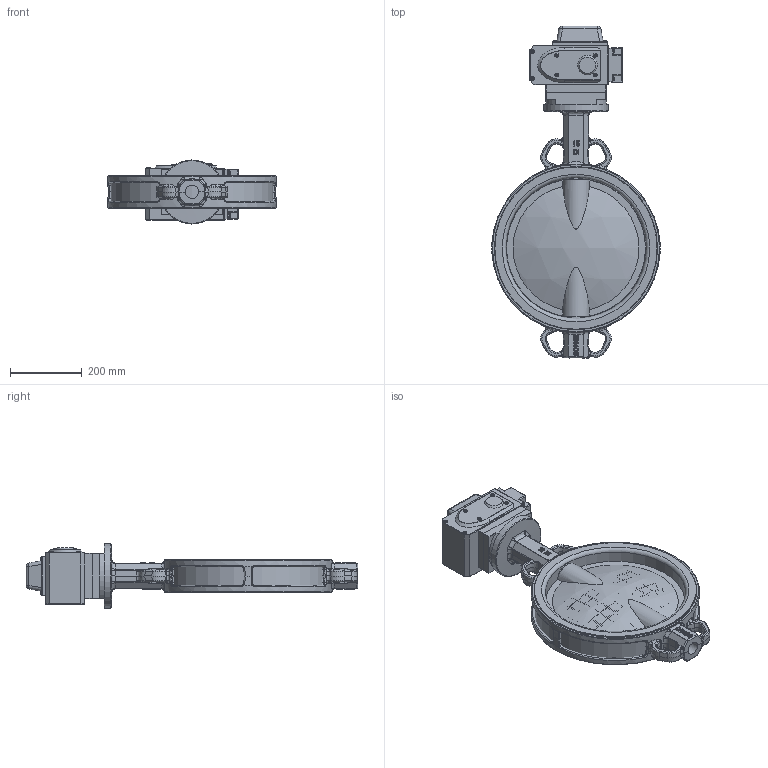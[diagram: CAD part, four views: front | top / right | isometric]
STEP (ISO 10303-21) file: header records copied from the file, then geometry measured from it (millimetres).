
FILE_DESCRIPTION(/* description */ (''),/* implementation_level */ '2;1');
FILE_NAME(/* name */ 'RSV81A220_380-DN400.stp',/* time_stamp */ '2024-08-20T14:05:17+07:00',/* author */ ('Eva'),/* organization */ (''),/* preprocessor_version */ 'ST-DEVELOPER v20',/* originating_system */ 'Autodesk Inventor 2025',/* authorisation */ '');
FILE_SCHEMA (('AUTOMOTIVE_DESIGN { 1 0 10303 214 3 1 1 }'));
Length unit declared in the file: metre
Products named in the file (13): RSV81A220_380-DN400; AРН16; AРН16_1; AРН16_2; AРН16_3; 00.DN350-DN600 єёЅУ°еЧЬіЙ(DN400
єёЅУ°еPN16); DN450єёЅУ°еЈЁ·§°еГжЈ©(
DN400єёЅУ°е °еГж)-1; DN450єёЅУ°еЈЁ·§°еГжЈ©(
DN400єёЅУ°е °еГж); DN400јУЗїЅо; ЦРРДјУЗїЦб(DN40
0ЦРРДјУЗїЦб); ЦбРѕ(DN400ЙПЦбРѕ); ЦбРѕ(DN400ПВЦбРѕ); ѕ«РЎРНµзЧ°
Assembly tree (12 placements, depth 3):
  RSV81A220_380-DN400
    AРН16
    AРН16_1
    AРН16_2
    AРН16_3
    00.DN350-DN600 єёЅУ°еЧЬіЙ(DN400
єёЅУ°еPN16)
      DN450єёЅУ°еЈЁ·§°еГжЈ©(
DN400єёЅУ°е °еГж)-1
      DN450єёЅУ°еЈЁ·§°еГжЈ©(
DN400єёЅУ°е °еГж)
      DN400јУЗїЅо
      ЦРРДјУЗїЦб(DN40
0ЦРРДјУЗїЦб)
      ЦбРѕ(DN400ЙПЦбРѕ)
      ЦбРѕ(DN400ПВЦбРѕ)
    ѕ«РЎРНµзЧ°
Bounding box: 467.93 x 922.3 x 178 mm (x, y, z)
Volume: 15816427.2 mm3; surface area: 2121140.7 mm2
Topology: 11 solids, 11 shells, 2314 faces, 6053 edges, 3764 vertices
Faces by surface type: plane 1187, cylinder 473, bspline 430, torus 107, cone 83, sphere 34
Full cylindrical faces by diameter (mm): 6 x24, 11.037 x4, 11.059 x6, 11.745 x4, 28.14 x1, 36.7 x2, 38.14 x2, 58 x1, 68 x4, 70 x2, 178 x1, 390 x1, 450.523 x1
Entity records: 136900 total; most frequent: CARTESIAN_POINT 80192, ORIENTED_EDGE 12032, DIRECTION 11016, EDGE_CURVE 6016, AXIS2_PLACEMENT_3D 4258, VERTEX_POINT 3764, EDGE_LOOP 2602, LINE 2500
